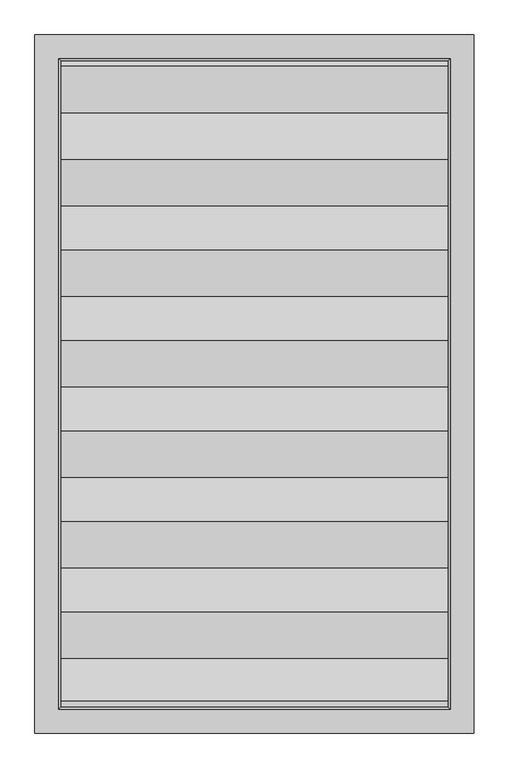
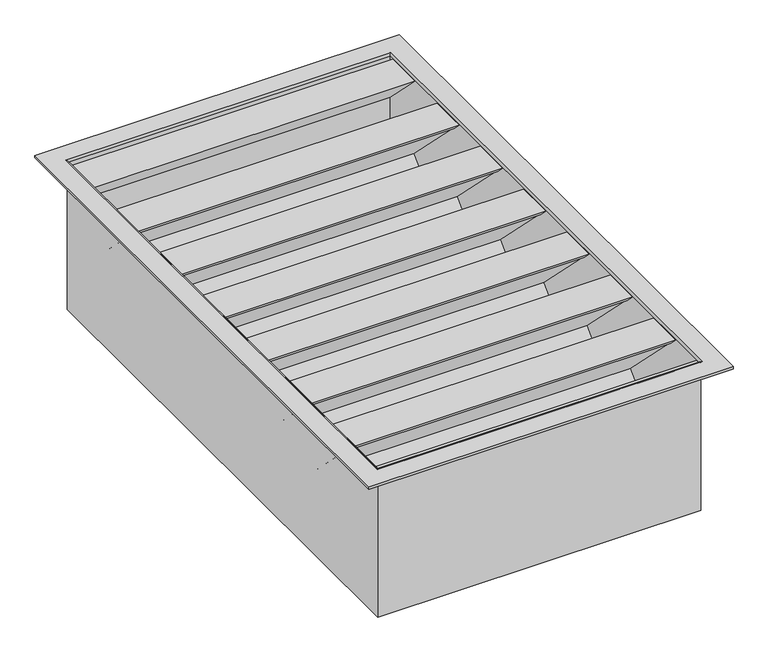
"""IFC4 building model written with IfcOpenShell, lengths in millimetres: air terminal geometry, NLRS_57_AIR_FB_Geluiddempende buitenluchtroosters GDBV-140 45_SMA : GDBV-140/45."""

from ifc_helpers import new_model, si_unit, frame, origin, place, context, project, spatial, polyline, ellipse_curve, outline, extrude, source, transform, mapped, element, save
from ifc_brep_helpers import plane_surface, cylinder_surface, revolved_surface, advanced_brep


def air_terminal_51783a86(model_context):
    return source(origin(), model_context, "Body", "SolidModel", [
        extrude(outline(polyline([(483.1, -145.9999992), (483.1, -154.883215), (347.9830126, -290.0), (276.0981375, -290.0), (293.2530918, -272.8444087), (294.2998553, -273.8911722), (423.1780942, -145.0129333), (294.2994702, -16.1343094), (293.2530918, -17.1806878), (276.0979508, -0.0258667), (347.9830134, -0.0258667), (483.1, -135.1426509), (483.1, -144.0258667), (492.9700895, -144.0258667), (492.9700895, -145.9999992), (483.1, -145.9999992)])), frame((-300.0, 0.0, 0.0), z_axis=(1.0, 0.0, 0.0), x_axis=(0.0, 1.0, 0.0)), (0.0, 0.0, 1.0), 600.0),
        extrude(outline(polyline([(343.1, -145.9999992), (343.1, -154.883215), (207.9830126, -290.0), (136.0981375, -290.0), (153.2530918, -272.8444087), (154.2998553, -273.8911722), (283.1780942, -145.0129333), (154.2994702, -16.1343094), (153.2530918, -17.1806878), (136.0979508, -0.0258667), (207.9830134, -0.0258667), (343.1, -135.1426509), (343.1, -144.0258667), (352.9700895, -144.0258667), (352.9700895, -145.9999992), (343.1, -145.9999992)])), frame((-300.0, 0.0, 0.0), z_axis=(1.0, 0.0, 0.0), x_axis=(0.0, 1.0, 0.0)), (0.0, 0.0, 1.0), 600.0),
        extrude(outline(polyline([(203.1, -145.9999992), (203.1, -154.883215), (67.9830126, -290.0), (-3.9018625, -290.0), (13.2530918, -272.8444087), (14.2998553, -273.8911722), (143.1780942, -145.0129333), (14.2994702, -16.1343094), (13.2530918, -17.1806878), (-3.9020492, -0.0258667), (67.9830134, -0.0258667), (203.1, -135.1426509), (203.1, -144.0258667), (212.9700895, -144.0258667), (212.9700895, -145.9999992), (203.1, -145.9999992)])), frame((-300.0, 0.0, 0.0), z_axis=(1.0, 0.0, 0.0), x_axis=(0.0, 1.0, 0.0)), (0.0, 0.0, 1.0), 600.0),
        extrude(outline(polyline([(63.1, -145.9999992), (63.1, -154.883215), (-72.0169874, -290.0), (-143.9018625, -290.0), (-126.7469082, -272.8444087), (-125.7001447, -273.8911722), (3.1780942, -145.0129333), (-125.7005298, -16.1343094), (-126.7469082, -17.1806878), (-143.9020492, -0.0258667), (-72.0169866, -0.0258667), (63.1, -135.1426509), (63.1, -144.0258667), (72.9700895, -144.0258667), (72.9700895, -145.9999992), (63.1, -145.9999992)])), frame((-300.0, 0.0, 0.0), z_axis=(1.0, 0.0, 0.0), x_axis=(0.0, 1.0, 0.0)), (0.0, 0.0, 1.0), 600.0),
        extrude(outline(polyline([(-76.9, -145.9999992), (-76.9, -154.883215), (-212.0169874, -290.0), (-283.9018625, -290.0), (-266.7469082, -272.8444087), (-265.7001447, -273.8911722), (-136.8219058, -145.0129333), (-265.7005298, -16.1343094), (-266.7469082, -17.1806878), (-283.9020492, -0.0258667), (-212.0169866, -0.0258667), (-76.9, -135.1426509), (-76.9, -144.0258667), (-67.0299105, -144.0258667), (-67.0299105, -145.9999992), (-76.9, -145.9999992)])), frame((-300.0, 0.0, 0.0), z_axis=(1.0, 0.0, 0.0), x_axis=(0.0, 1.0, 0.0)), (0.0, 0.0, 1.0), 600.0),
        extrude(outline(polyline([(-216.9, -145.9999992), (-216.9, -154.883215), (-352.0169874, -290.0), (-423.9018625, -290.0), (-406.7469082, -272.8444087), (-405.7001447, -273.8911722), (-276.8219058, -145.0129333), (-405.7005298, -16.1343094), (-406.7469082, -17.1806878), (-423.9020492, -0.0258667), (-352.0169866, -0.0258667), (-216.9, -135.1426509), (-216.9, -144.0258667), (-207.0299105, -144.0258667), (-207.0299105, -145.9999992), (-216.9, -145.9999992)])), frame((-300.0, 0.0, 0.0), z_axis=(1.0, 0.0, 0.0), x_axis=(0.0, 1.0, 0.0)), (0.0, 0.0, 1.0), 600.0),
        extrude(outline(polyline([(491.5, -286.5510372), (419.5, -286.5510372), (500.0, -206.0510372), (500.0, -278.0510372), (491.5, -286.5510372)])), frame((-300.0, 0.0, 0.0), z_axis=(1.0, 0.0, 0.0), x_axis=(0.0, 1.0, 0.0)), (0.0, 0.0, 1.0), 600.0),
        extrude(outline(polyline([(491.5, 0.0489628), (500.0, -8.4510372), (500.0, -80.4510372), (419.5, 0.0489628), (491.5, 0.0489628)])), frame((-300.0, 0.0, 0.0), z_axis=(1.0, 0.0, 0.0), x_axis=(0.0, 1.0, 0.0)), (0.0, 0.0, 1.0), 600.0),
        extrude(outline(polyline([(-490.3140974, 0.0489628), (-356.8841797, -133.3807551), (-356.8841797, -142.2639709), (-347.0138972, -142.2639709), (-347.0138972, -144.2381035), (-356.8841797, -144.2381035), (-356.8841797, -153.1213193), (-490.3140974, -286.5510372), (-500.0, -286.5510372), (-500.0, 0.0489628), (-490.3140974, 0.0489628)])), frame((-300.0, 0.0, 0.0), z_axis=(1.0, 0.0, 0.0), x_axis=(0.0, 1.0, 0.0)), (0.0, 0.0, 1.0), 600.0),
        advanced_brep(
        [(301.4695295, 501.4695295, 1.1587848), (303.4542548, 503.4542548, 3.1435102), (303.4542548, -503.4542548, 3.1435102), (301.4695295, -501.4695295, 1.1587848), (301.4695295, 501.4695295, -290.0), (301.4695295, -501.4695295, -290.0), (285.1867439, 485.1867439, -288.5), (285.1867439, 485.1867439, -290.0), (285.1867439, -485.1867439, -290.0), (285.1867439, -485.1867439, -288.5), (300.0, 500.0, -288.5), (300.0, -500.0, -288.5), (300.0, -500.0, 1.1644463), (300.0, 500.0, 1.1644463), (303.4507339, 503.4507339, 4.6151802), (303.4507339, -503.4507339, 4.6151802), (-303.4542548, -503.4542548, 3.1435102), (-301.4695295, -501.4695295, 1.1587848), (-301.4695295, -501.4695295, -290.0), (-285.1867439, -485.1867439, -290.0), (-285.1867439, -485.1867439, -288.5), (-300.0, -500.0, -288.5), (-300.0, -500.0, 1.1644463), (-303.4507339, -503.4507339, 4.6151802), (-303.4542548, 503.4542548, 3.1435102), (-301.4695295, 501.4695295, 1.1587848), (-301.4695295, 501.4695295, -290.0), (-285.1867439, 485.1867439, -290.0), (-285.1867439, 485.1867439, -288.5), (-300.0, 500.0, -288.5), (-300.0, 500.0, 1.1644463), (-303.4507339, 503.4507339, 4.6151802), (337.9596736, -537.9596736, 3.1435102), (-337.9596736, -537.9596736, 3.1435102), (-337.9596736, 537.9596736, 3.1435102), (337.9596736, 537.9596736, 3.1435102), (340.0, 540.0, 4.6151802), (-340.0, 540.0, 4.6151802), (-340.0, -540.0, 4.6151802), (340.0, -540.0, 4.6151802), (340.0, 540.0, 0.0), (340.0, -540.0, 0.0), (336.9581224, 536.9581224, 1.2615748), (336.9581224, 536.9581224, 0.0), (336.9581224, -536.9581224, 0.0), (336.9581224, -536.9581224, 1.2615748), (337.9596736, 537.9596736, 1.2615748), (337.9596736, -537.9596736, 1.2615748), (-340.0, -540.0, 0.0), (-336.9581224, -536.9581224, 0.0), (-336.9581224, -536.9581224, 1.2615748), (-337.9596736, -537.9596736, 1.2615748), (-340.0, 540.0, 0.0), (-336.9581224, 536.9581224, 0.0), (-336.9581224, 536.9581224, 1.2615748), (-337.9596736, 537.9596736, 1.2615748)],
        [
            (0, 1, ellipse_curve(frame((303.4542548, 503.4542548, 1.1587848), z_axis=(-0.7071067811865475, 0.7071067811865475, 0.0), x_axis=(-0.7071067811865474, -0.7071067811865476, 0.0)), 2.8068255, 1.9847254)),
            (1, 2),
            (2, 3, ellipse_curve(frame((303.4542548, -503.4542548, 1.1587848), z_axis=(-0.7071067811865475, -0.7071067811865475, 0.0), x_axis=(0.7071067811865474, -0.7071067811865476, 0.0)), 2.8068255, 1.9847254)),
            (3, 0),
            (4, 0),
            (3, 5),
            (5, 4),
            (6, 7),
            (7, 8),
            (8, 9),
            (9, 6),
            (10, 11),
            (11, 12),
            (12, 13),
            (13, 10),
            (14, 13, ellipse_curve(frame((303.4507339, 503.4507339, 1.1644463), z_axis=(0.7071067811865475, -0.7071067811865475, 0.0), x_axis=(0.7071067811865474, 0.7071067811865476, 0.0)), 4.8800747, 3.4507339)),
            (12, 15, ellipse_curve(frame((303.4507339, -503.4507339, 1.1644463), z_axis=(0.7071067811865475, 0.7071067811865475, 0.0), x_axis=(-0.7071067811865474, 0.7071067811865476, 0.0)), 4.8800747, 3.4507339)),
            (15, 14),
            (2, 16),
            (16, 17, ellipse_curve(frame((-303.4542548, -503.4542548, 1.1587848), z_axis=(-0.7071067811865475, 0.7071067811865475, 0.0), x_axis=(-0.7071067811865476, -0.7071067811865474, 0.0)), 2.8068255, 1.9847254)),
            (17, 3),
            (17, 18),
            (18, 5),
            (8, 19),
            (19, 20),
            (20, 9),
            (11, 21),
            (21, 22),
            (22, 12),
            (22, 23, ellipse_curve(frame((-303.4507339, -503.4507339, 1.1644463), z_axis=(0.7071067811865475, -0.7071067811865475, 0.0), x_axis=(0.7071067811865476, 0.7071067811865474, 0.0)), 4.8800747, 3.4507339)),
            (23, 15),
            (16, 24),
            (24, 25, ellipse_curve(frame((-303.4542548, 503.4542548, 1.1587848), z_axis=(0.7071067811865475, 0.7071067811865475, 0.0), x_axis=(-0.7071067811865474, 0.7071067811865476, 0.0)), 2.8068255, 1.9847254)),
            (25, 17),
            (25, 26),
            (26, 18),
            (19, 27),
            (27, 28),
            (28, 20),
            (21, 29),
            (29, 30),
            (30, 22),
            (30, 31, ellipse_curve(frame((-303.4507339, 503.4507339, 1.1644463), z_axis=(-0.7071067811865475, -0.7071067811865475, 0.0), x_axis=(0.7071067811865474, -0.7071067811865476, 0.0)), 4.8800747, 3.4507339)),
            (31, 23),
            (32, 33),
            (33, 34),
            (34, 35),
            (35, 32),
            (1, 24),
            (0, 25),
            (4, 26),
            (7, 27),
            (6, 28),
            (10, 29),
            (13, 30),
            (14, 31),
            (36, 37),
            (37, 38),
            (38, 39),
            (39, 36),
            (40, 36),
            (39, 41),
            (41, 40),
            (42, 43),
            (43, 44),
            (44, 45),
            (45, 42),
            (35, 46),
            (46, 47),
            (47, 32),
            (38, 48),
            (48, 41),
            (44, 49),
            (49, 50),
            (50, 45),
            (47, 51),
            (51, 33),
            (37, 52),
            (52, 48),
            (49, 53),
            (53, 54),
            (54, 50),
            (51, 55),
            (55, 34),
            (40, 52),
            (43, 53),
            (42, 54),
            (46, 55),
        ],
        [
            revolved_surface(polyline([(305.4389802, -505.4389801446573, 1.1587848), (305.4389802, 505.4389801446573, 1.1587848)]), (303.4542548, 500.0, 1.1587848), (0.0, -1.0, 0.0)),
            plane_surface(frame((301.4695295, 501.4695295, 1.1587848), z_axis=(1.0, 0.0, 0.0), x_axis=(0.0, -1.0, 0.0))),
            plane_surface(frame((285.1867439, 485.1867439, -290.0), z_axis=(-1.0, 0.0, 0.0), x_axis=(0.0, -1.0, 0.0))),
            plane_surface(frame((300.0, 500.0, -16.1095276), z_axis=(-1.0, 0.0, 0.0), x_axis=(0.0, -1.0, 0.0))),
            cylinder_surface(frame((303.4507339, 500.0, 1.1644463), z_axis=(0.0, 1.0, 0.0), x_axis=(1.0, 0.0, 0.0)), 3.4507339),
            revolved_surface(polyline([(-305.4389801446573, -505.4389802, 1.1587848), (305.4389801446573, -505.4389802, 1.1587848)]), (300.0, -503.4542548, 1.1587848), (-1.0, 0.0, 0.0)),
            plane_surface(frame((301.4695295, -501.4695295, 1.1587848), z_axis=(0.0, -1.0, 0.0), x_axis=(-1.0, 0.0, 0.0))),
            plane_surface(frame((285.1867439, -485.1867439, -290.0), z_axis=(0.0, 1.0, 0.0), x_axis=(-1.0, 0.0, 0.0))),
            plane_surface(frame((300.0, -500.0, -16.1095276), z_axis=(0.0, 1.0, 0.0), x_axis=(-1.0, 0.0, 0.0))),
            cylinder_surface(frame((300.0, -503.4507339, 1.1644463), z_axis=(1.0, 0.0, 0.0), x_axis=(0.0, -1.0, 0.0)), 3.4507339),
            revolved_surface(polyline([(-305.4389802, 505.4389801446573, 1.1587848), (-305.4389802, -505.4389801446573, 1.1587848)]), (-303.4542548, -500.0, 1.1587848), (0.0, 1.0, 0.0)),
            plane_surface(frame((-301.4695295, -501.4695295, 1.1587848), z_axis=(-1.0, 0.0, 0.0), x_axis=(0.0, 1.0, 0.0))),
            plane_surface(frame((-285.1867439, -485.1867439, -290.0), z_axis=(1.0, 0.0, 0.0), x_axis=(0.0, 1.0, 0.0))),
            plane_surface(frame((-300.0, -500.0, -16.1095276), z_axis=(1.0, 0.0, 0.0), x_axis=(0.0, 1.0, 0.0))),
            cylinder_surface(frame((-303.4507339, -500.0, 1.1644463), z_axis=(0.0, -1.0, 0.0), x_axis=(-1.0, 0.0, 0.0)), 3.4507339),
            plane_surface(frame((-337.9596736, 537.9596736, 3.1435102), z_axis=(0.0, 0.0, -1.0), x_axis=(1.0, 0.0, 0.0))),
            revolved_surface(polyline([(305.4389801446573, 505.4389802, 1.1587848), (-305.4389801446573, 505.4389802, 1.1587848)]), (-300.0, 503.4542548, 1.1587848), (1.0, 0.0, 0.0)),
            plane_surface(frame((-301.4695295, 501.4695295, 1.1587848), z_axis=(0.0, 1.0, 0.0), x_axis=(1.0, 0.0, 0.0))),
            plane_surface(frame((-301.4695295, 501.4695295, -290.0), z_axis=(0.0, 0.0, -1.0), x_axis=(1.0, 0.0, 0.0))),
            plane_surface(frame((-285.1867439, 485.1867439, -290.0), z_axis=(0.0, -1.0, 0.0), x_axis=(1.0, 0.0, 0.0))),
            plane_surface(frame((-285.1867439, 485.1867439, -288.5), z_axis=(0.0, 0.0, 1.0), x_axis=(1.0, 0.0, 0.0))),
            plane_surface(frame((-300.0, 500.0, -16.1095276), z_axis=(0.0, -1.0, 0.0), x_axis=(1.0, 0.0, 0.0))),
            cylinder_surface(frame((-300.0, 503.4507339, 1.1644463), z_axis=(-1.0, 0.0, 0.0), x_axis=(0.0, 1.0, 0.0)), 3.4507339),
            plane_surface(frame((-303.4507339, 503.4507339, 4.6151802), z_axis=(0.0, 0.0, 1.0), x_axis=(1.0, 0.0, 0.0))),
            plane_surface(frame((340.0, 540.0, 4.6151802), z_axis=(1.0, 0.0, 0.0), x_axis=(0.0, -1.0, 0.0))),
            plane_surface(frame((336.9581224, 536.9581224, 0.0), z_axis=(-1.0, 0.0, 0.0), x_axis=(0.0, -1.0, 0.0))),
            plane_surface(frame((337.9596736, 537.9596736, 1.2615748), z_axis=(-1.0, 0.0, 0.0), x_axis=(0.0, -1.0, 0.0))),
            plane_surface(frame((340.0, -540.0, 4.6151802), z_axis=(0.0, -1.0, 0.0), x_axis=(-1.0, 0.0, 0.0))),
            plane_surface(frame((336.9581224, -536.9581224, 0.0), z_axis=(0.0, 1.0, 0.0), x_axis=(-1.0, 0.0, 0.0))),
            plane_surface(frame((337.9596736, -537.9596736, 1.2615748), z_axis=(0.0, 1.0, 0.0), x_axis=(-1.0, 0.0, 0.0))),
            plane_surface(frame((-340.0, -540.0, 4.6151802), z_axis=(-1.0, 0.0, 0.0), x_axis=(0.0, 1.0, 0.0))),
            plane_surface(frame((-336.9581224, -536.9581224, 0.0), z_axis=(1.0, 0.0, 0.0), x_axis=(0.0, 1.0, 0.0))),
            plane_surface(frame((-337.9596736, -537.9596736, 1.2615748), z_axis=(1.0, 0.0, 0.0), x_axis=(0.0, 1.0, 0.0))),
            plane_surface(frame((-340.0, 540.0, 4.6151802), z_axis=(0.0, 1.0, 0.0), x_axis=(1.0, 0.0, 0.0))),
            plane_surface(frame((-340.0, 540.0, 0.0), z_axis=(0.0, 0.0, -1.0), x_axis=(1.0, 0.0, 0.0))),
            plane_surface(frame((-336.9581224, 536.9581224, 0.0), z_axis=(0.0, -1.0, 0.0), x_axis=(1.0, 0.0, 0.0))),
            plane_surface(frame((-336.9581224, 536.9581224, 1.2615748), z_axis=(0.0, 0.0, 1.0), x_axis=(1.0, 0.0, 0.0))),
            plane_surface(frame((-337.9596736, 537.9596736, 1.2615748), z_axis=(0.0, -1.0, 0.0), x_axis=(1.0, 0.0, 0.0))),
        ],
        [
            (0, [[1, 2, 3, 4]]),
            (1, [[5, -4, 6, 7]]),
            (2, [[8, 9, 10, 11]]),
            (3, [[12, 13, 14, 15]]),
            (4, [[16, -14, 17, 18]]),
            (5, [[-3, 19, 20, 21]]),
            (6, [[-6, -21, 22, 23]]),
            (7, [[-10, 24, 25, 26]]),
            (8, [[-13, 27, 28, 29]]),
            (9, [[-17, -29, 30, 31]]),
            (10, [[-20, 32, 33, 34]]),
            (11, [[-22, -34, 35, 36]]),
            (12, [[-25, 37, 38, 39]]),
            (13, [[-28, 40, 41, 42]]),
            (14, [[-30, -42, 43, 44]]),
            (15, [[45, 46, 47, 48], [49, -32, -19, -2]]),
            (16, [[-33, -49, -1, 50]]),
            (17, [[-35, -50, -5, 51]]),
            (18, [[-23, -36, -51, -7], [52, -37, -24, -9]]),
            (19, [[-38, -52, -8, 53]]),
            (20, [[54, -40, -27, -12], [-26, -39, -53, -11]]),
            (21, [[-41, -54, -15, 55]]),
            (22, [[-43, -55, -16, 56]]),
            (23, [[57, 58, 59, 60], [-31, -44, -56, -18]]),
            (24, [[61, -60, 62, 63]]),
            (25, [[64, 65, 66, 67]]),
            (26, [[68, 69, 70, -48]]),
            (27, [[-62, -59, 71, 72]]),
            (28, [[-66, 73, 74, 75]]),
            (29, [[-70, 76, 77, -45]]),
            (30, [[-71, -58, 78, 79]]),
            (31, [[-74, 80, 81, 82]]),
            (32, [[-77, 83, 84, -46]]),
            (33, [[-78, -57, -61, 85]]),
            (34, [[-72, -79, -85, -63], [86, -80, -73, -65]]),
            (35, [[-81, -86, -64, 87]]),
            (36, [[88, -83, -76, -69], [-75, -82, -87, -67]]),
            (37, [[-84, -88, -68, -47]]),
        ],
    ),
    ])


if __name__ == "__main__":
    model = new_model("IFC4")
    model_context = context("Model", 3, world=origin())
    ifc_project = project(units=[si_unit("LENGTHUNIT", "METRE", prefix="MILLI")], contexts=[model_context])
    site = spatial("IfcSite", under=ifc_project)
    building = spatial("IfcBuilding", under=site)
    placement = place(None, origin())
    air_terminal_shape = air_terminal_51783a86(model_context)
    element("IfcAirTerminal", 1, ObjectType="NLRS_57_AIR_FB_Geluiddempende buitenluchtroosters GDBV-140 45_SMA : GDBV-140/45", at=placement, inside=building, context=model_context, shape_type="MappedRepresentation", body=[
        mapped(air_terminal_shape, transform((0.0, 0.0, 0.0), x_axis=(1.0, 0.0, 0.0), y_axis=(0.0, 1.0, 0.0), z_axis=(0.0, 0.0, 1.0))),
    ])
    save(model, "model.ifc")
